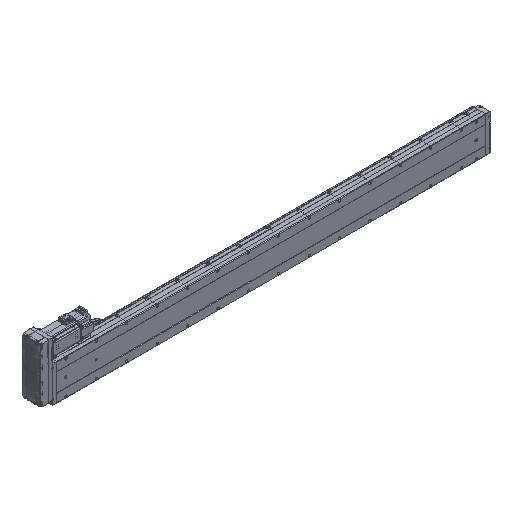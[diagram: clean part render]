
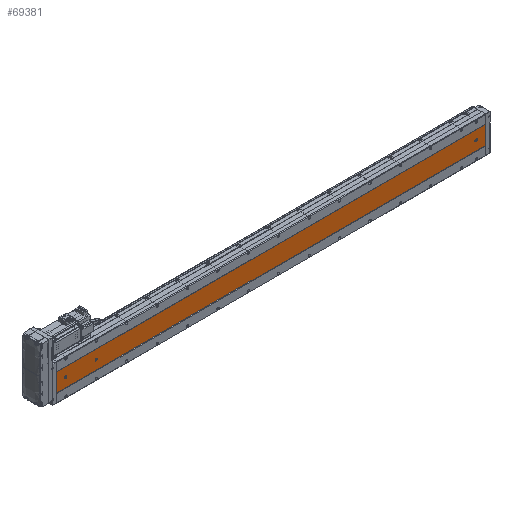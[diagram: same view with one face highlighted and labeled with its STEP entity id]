
A CAD part, isometric view. The second image highlights one B-rep face of the part: STEP entity #69381.
In plain terms, the highlighted planar face has unit normal (0, -1, 0).
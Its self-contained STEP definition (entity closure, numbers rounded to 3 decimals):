
#998 = VERTEX_POINT ( 'NONE', #56724 ) ;
#1006 = AXIS2_PLACEMENT_3D ( 'NONE', #90191, #36353, #71721 ) ;
#1115 = EDGE_CURVE ( 'NONE', #37067, #44359, #109454, .T. ) ;
#2172 = EDGE_CURVE ( 'NONE', #22883, #4240, #93785, .T. ) ;
#2363 = AXIS2_PLACEMENT_3D ( 'NONE', #38146, #28731, #47176 ) ;
#2719 = CARTESIAN_POINT ( 'NONE',  ( -39.892, -52.848, 32. ) ) ;
#2838 = CARTESIAN_POINT ( 'NONE',  ( -39.892, -52.848, 1281. ) ) ;
#3006 = VERTEX_POINT ( 'NONE', #39255 ) ;
#3012 = ORIENTED_EDGE ( 'NONE', *, *, #110168, .T. ) ;
#4240 = VERTEX_POINT ( 'NONE', #105179 ) ;
#5546 = DIRECTION ( 'NONE',  ( 0., 0., 1. ) ) ;
#5962 = DIRECTION ( 'NONE',  ( 1., 0., 0. ) ) ;
#7255 = DIRECTION ( 'NONE',  ( 0., 0., -1. ) ) ;
#8551 = CARTESIAN_POINT ( 'NONE',  ( -36.392, -52.848, 1411. ) ) ;
#10493 = CARTESIAN_POINT ( 'NONE',  ( -39.892, -52.848, 30. ) ) ;
#10769 = ORIENTED_EDGE ( 'NONE', *, *, #115256, .T. ) ;
#10924 = EDGE_CURVE ( 'NONE', #16384, #3006, #70750, .T. ) ;
#10940 = EDGE_CURVE ( 'NONE', #998, #3006, #42669, .T. ) ;
#11044 = CARTESIAN_POINT ( 'NONE',  ( -39.892, -52.848, 1377.5 ) ) ;
#11063 = DIRECTION ( 'NONE',  ( 0., 0., 1. ) ) ;
#13230 = VECTOR ( 'NONE', #7255, 1000. ) ;
#15657 = DIRECTION ( 'NONE',  ( 0., 0., 1. ) ) ;
#16384 = VERTEX_POINT ( 'NONE', #58853 ) ;
#17805 = DIRECTION ( 'NONE',  ( 0., 1., 0. ) ) ;
#20215 = LINE ( 'NONE', #33437, #13230 ) ;
#20590 = EDGE_CURVE ( 'NONE', #99355, #108771, #42502, .T. ) ;
#22883 = VERTEX_POINT ( 'NONE', #29324 ) ;
#23542 = ORIENTED_EDGE ( 'NONE', *, *, #20590, .T. ) ;
#27748 = VECTOR ( 'NONE', #99143, 1000. ) ;
#28731 = DIRECTION ( 'NONE',  ( 0., 1., 0. ) ) ;
#29278 = CARTESIAN_POINT ( 'NONE',  ( -69.892, -52.848, 1411. ) ) ;
#29324 = CARTESIAN_POINT ( 'NONE',  ( -36.392, -52.848, 32. ) ) ;
#29850 = EDGE_LOOP ( 'NONE', ( #43368, #10769 ) ) ;
#31023 = VERTEX_POINT ( 'NONE', #29278 ) ;
#31230 = EDGE_LOOP ( 'NONE', ( #95927, #103738 ) ) ;
#31588 = CARTESIAN_POINT ( 'NONE',  ( -39.892, -52.848, 26.5 ) ) ;
#32537 = CARTESIAN_POINT ( 'NONE',  ( -69.892, -52.848, 1411. ) ) ;
#33437 = CARTESIAN_POINT ( 'NONE',  ( -69.892, -52.848, 1411. ) ) ;
#36353 = DIRECTION ( 'NONE',  ( 0., 1., 0. ) ) ;
#37067 = VERTEX_POINT ( 'NONE', #11044 ) ;
#38146 = CARTESIAN_POINT ( 'NONE',  ( -39.892, -52.848, 1281. ) ) ;
#39255 = CARTESIAN_POINT ( 'NONE',  ( -9.892, -52.848, 0. ) ) ;
#39593 = PLANE ( 'NONE',  #70686 ) ;
#39994 = CIRCLE ( 'NONE', #2363, 3.5 ) ;
#42502 = LINE ( 'NONE', #96881, #112703 ) ;
#42669 = LINE ( 'NONE', #66524, #63763 ) ;
#43368 = ORIENTED_EDGE ( 'NONE', *, *, #1115, .T. ) ;
#43461 = AXIS2_PLACEMENT_3D ( 'NONE', #10493, #90530, #81901 ) ;
#44359 = VERTEX_POINT ( 'NONE', #69753 ) ;
#45784 = ORIENTED_EDGE ( 'NONE', *, *, #10924, .F. ) ;
#47083 = CARTESIAN_POINT ( 'NONE',  ( -43.392, -52.848, 32. ) ) ;
#47176 = DIRECTION ( 'NONE',  ( 0., 0., 1. ) ) ;
#48871 = DIRECTION ( 'NONE',  ( 0., 1., 0. ) ) ;
#50417 = CARTESIAN_POINT ( 'NONE',  ( -9.892, -52.848, 1411. ) ) ;
#51310 = VERTEX_POINT ( 'NONE', #31588 ) ;
#52222 = EDGE_CURVE ( 'NONE', #78196, #77541, #60689, .T. ) ;
#53113 = DIRECTION ( 'NONE',  ( 0., 0., 1. ) ) ;
#53600 = EDGE_CURVE ( 'NONE', #108771, #22883, #97050, .T. ) ;
#56724 = CARTESIAN_POINT ( 'NONE',  ( -69.892, -52.848, 0. ) ) ;
#56966 = ORIENTED_EDGE ( 'NONE', *, *, #53600, .T. ) ;
#57837 = DIRECTION ( 'NONE',  ( 1., 0., 0. ) ) ;
#57885 = CIRCLE ( 'NONE', #1006, 3.5 ) ;
#58228 = DIRECTION ( 'NONE',  ( 0., 0., -1. ) ) ;
#58853 = CARTESIAN_POINT ( 'NONE',  ( -9.892, -52.848, 1411. ) ) ;
#59336 = EDGE_CURVE ( 'NONE', #77541, #78196, #39994, .T. ) ;
#59640 = AXIS2_PLACEMENT_3D ( 'NONE', #2838, #92246, #11063 ) ;
#60689 = CIRCLE ( 'NONE', #59640, 3.5 ) ;
#62780 = ORIENTED_EDGE ( 'NONE', *, *, #2172, .T. ) ;
#63763 = VECTOR ( 'NONE', #57837, 1000. ) ;
#65051 = AXIS2_PLACEMENT_3D ( 'NONE', #2719, #48871, #93259 ) ;
#66114 = FACE_OUTER_BOUND ( 'NONE', #112230, .T. ) ;
#66524 = CARTESIAN_POINT ( 'NONE',  ( -69.892, -52.848, 0. ) ) ;
#66667 = DIRECTION ( 'NONE',  ( 0., 1., 0. ) ) ;
#67589 = FACE_BOUND ( 'NONE', #111055, .T. ) ;
#69381 = ADVANCED_FACE ( 'NONE', ( #67589, #113856, #77415, #66114 ), #39593, .F. ) ;
#69418 = VECTOR ( 'NONE', #58228, 1000. ) ;
#69753 = CARTESIAN_POINT ( 'NONE',  ( -39.892, -52.848, 1384.5 ) ) ;
#70686 = AXIS2_PLACEMENT_3D ( 'NONE', #93800, #76939, #5546 ) ;
#70750 = LINE ( 'NONE', #50417, #69418 ) ;
#71721 = DIRECTION ( 'NONE',  ( 0., 0., 1. ) ) ;
#73141 = CARTESIAN_POINT ( 'NONE',  ( -39.892, -52.848, 1277.5 ) ) ;
#74547 = CARTESIAN_POINT ( 'NONE',  ( -39.892, -52.848, 1381. ) ) ;
#75010 = VECTOR ( 'NONE', #5962, 1000. ) ;
#76939 = DIRECTION ( 'NONE',  ( 0., 1., 0. ) ) ;
#77415 = FACE_BOUND ( 'NONE', #29850, .T. ) ;
#77541 = VERTEX_POINT ( 'NONE', #73141 ) ;
#78196 = VERTEX_POINT ( 'NONE', #111512 ) ;
#81901 = DIRECTION ( 'NONE',  ( 0., 0., 1. ) ) ;
#82750 = ORIENTED_EDGE ( 'NONE', *, *, #112335, .T. ) ;
#83128 = AXIS2_PLACEMENT_3D ( 'NONE', #90030, #17805, #53113 ) ;
#84950 = LINE ( 'NONE', #32537, #75010 ) ;
#85333 = CARTESIAN_POINT ( 'NONE',  ( -43.392, -52.848, 30. ) ) ;
#85571 = AXIS2_PLACEMENT_3D ( 'NONE', #74547, #66667, #112185 ) ;
#86269 = ORIENTED_EDGE ( 'NONE', *, *, #98727, .T. ) ;
#90030 = CARTESIAN_POINT ( 'NONE',  ( -39.892, -52.848, 1381. ) ) ;
#90191 = CARTESIAN_POINT ( 'NONE',  ( -39.892, -52.848, 30. ) ) ;
#90530 = DIRECTION ( 'NONE',  ( 0., 1., 0. ) ) ;
#92246 = DIRECTION ( 'NONE',  ( 0., 1., 0. ) ) ;
#93259 = DIRECTION ( 'NONE',  ( 0., 0., 1. ) ) ;
#93785 = LINE ( 'NONE', #8551, #27748 ) ;
#93800 = CARTESIAN_POINT ( 'NONE',  ( -69.892, -52.848, 1411. ) ) ;
#95927 = ORIENTED_EDGE ( 'NONE', *, *, #59336, .T. ) ;
#96881 = CARTESIAN_POINT ( 'NONE',  ( -43.392, -52.848, 1411. ) ) ;
#97050 = CIRCLE ( 'NONE', #65051, 3.5 ) ;
#98727 = EDGE_CURVE ( 'NONE', #31023, #998, #20215, .T. ) ;
#98877 = ORIENTED_EDGE ( 'NONE', *, *, #10940, .T. ) ;
#99143 = DIRECTION ( 'NONE',  ( 0., 0., -1. ) ) ;
#99355 = VERTEX_POINT ( 'NONE', #85333 ) ;
#99385 = CIRCLE ( 'NONE', #83128, 3.5 ) ;
#101262 = ORIENTED_EDGE ( 'NONE', *, *, #104836, .F. ) ;
#103738 = ORIENTED_EDGE ( 'NONE', *, *, #52222, .T. ) ;
#104836 = EDGE_CURVE ( 'NONE', #31023, #16384, #84950, .T. ) ;
#105179 = CARTESIAN_POINT ( 'NONE',  ( -36.392, -52.848, 30. ) ) ;
#108771 = VERTEX_POINT ( 'NONE', #47083 ) ;
#109454 = CIRCLE ( 'NONE', #85571, 3.5 ) ;
#110168 = EDGE_CURVE ( 'NONE', #51310, #99355, #113231, .T. ) ;
#111055 = EDGE_LOOP ( 'NONE', ( #23542, #56966, #62780, #82750, #3012 ) ) ;
#111512 = CARTESIAN_POINT ( 'NONE',  ( -39.892, -52.848, 1284.5 ) ) ;
#112185 = DIRECTION ( 'NONE',  ( 0., 0., 1. ) ) ;
#112230 = EDGE_LOOP ( 'NONE', ( #98877, #45784, #101262, #86269 ) ) ;
#112335 = EDGE_CURVE ( 'NONE', #4240, #51310, #57885, .T. ) ;
#112703 = VECTOR ( 'NONE', #15657, 1000. ) ;
#113231 = CIRCLE ( 'NONE', #43461, 3.5 ) ;
#113856 = FACE_BOUND ( 'NONE', #31230, .T. ) ;
#115256 = EDGE_CURVE ( 'NONE', #44359, #37067, #99385, .T. ) ;
